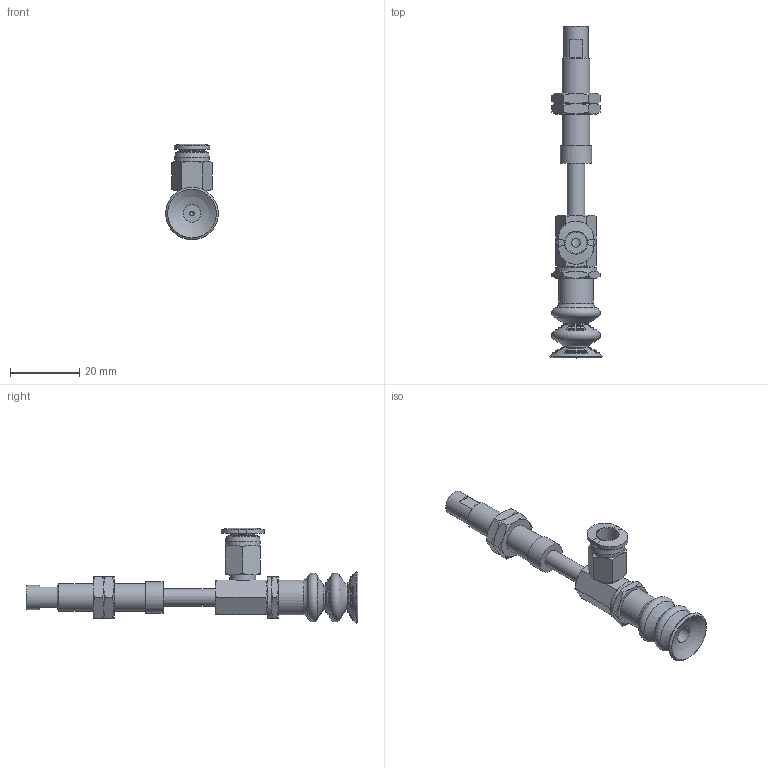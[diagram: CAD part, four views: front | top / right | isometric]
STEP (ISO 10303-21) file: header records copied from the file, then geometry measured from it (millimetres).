
FILE_DESCRIPTION(('STEP AP203'),'1');
FILE_NAME('-O.stp','2025-04-03T07:01:56',(' '),(' '),'Spatial InterOp 3D',' ',' ');
FILE_SCHEMA(('CONFIG_CONTROL_DESIGN'));
Length unit declared in the file: millimetre
Products named in the file (8): BNABPCYS-15-15-※-O; Adapter_napc-15-T; Connector_s-15-15; Nut napc_s-15-15; NAPCTS-15-15-FBODY; NAPCTS-15-15-MBODY; BPCG-15-※; PC-C_06-M5
Assembly tree (8 placements, depth 2):
  BNABPCYS-15-15-※-O
    Adapter_napc-15-T
    Connector_s-15-15
    Nut napc_s-15-15  x2
    NAPCTS-15-15-FBODY
    NAPCTS-15-15-MBODY
    BPCG-15-※
    PC-C_06-M5
Bounding box: 15.2 x 95.7 x 27.58 mm (x, y, z)
Volume: 6075.5 mm3; surface area: 7331.4 mm2
Topology: 7 solids, 10 shells, 288 faces, 802 edges, 512 vertices
Faces by surface type: cone 84, plane 75, sphere 58, torus 36, cylinder 28, bspline 4, revolution 3
Full cylindrical faces by diameter (mm): 1.25 x1, 4 x2, 4.134 x3, 5 x9, 7 x2, 7.188 x2, 7.4 x1, 8 x1, 8.2 x1, 9 x1, 10 x2, 12 x1
Entity records: 8275 total; most frequent: CARTESIAN_POINT 2477, DIRECTION 1165, ORIENTED_EDGE 998, AXIS2_PLACEMENT_3D 549, EDGE_CURVE 501, EDGE_LOOP 376, VERTEX_POINT 352, CIRCLE 281
